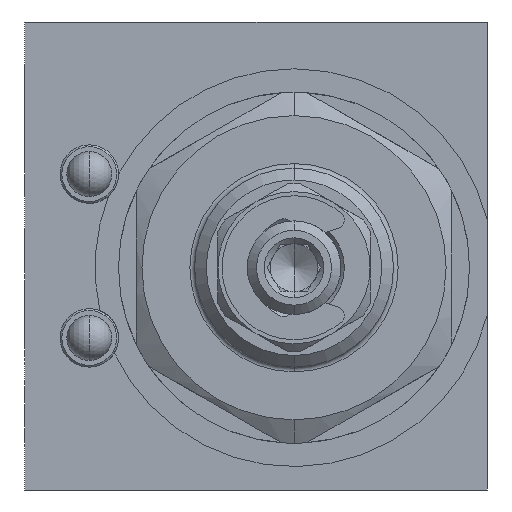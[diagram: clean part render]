
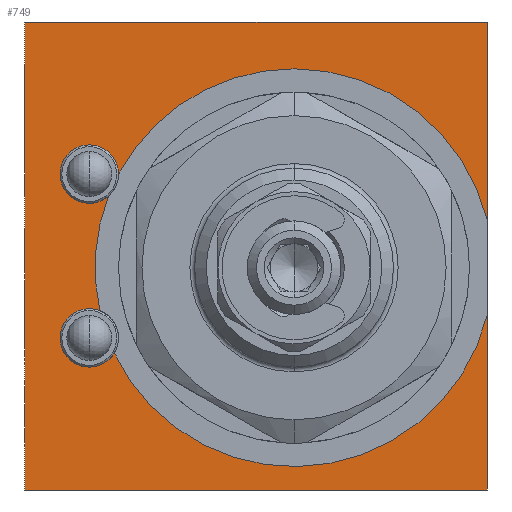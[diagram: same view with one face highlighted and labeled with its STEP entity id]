
A CAD part, left-side view. The second image highlights one B-rep face of the part: STEP entity #749.
In plain terms, the highlighted planar face has unit normal (-1, 0, 0).
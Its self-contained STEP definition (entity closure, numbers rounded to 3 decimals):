
#319 = AXIS2_PLACEMENT_3D ( 'NONE', #8232, #8203, #8198 ) ;
#443 = AXIS2_PLACEMENT_3D ( 'NONE', #13245, #13146, #13103 ) ;
#455 = AXIS2_PLACEMENT_3D ( 'NONE', #13768, #13729, #13668 ) ;
#749 = ADVANCED_FACE ( 'NONE', ( #11111 ), #6952, .T. ) ;
#1048 = VERTEX_POINT ( 'NONE', #10177 ) ;
#1672 = CIRCLE ( 'NONE', #455, 2.5 ) ;
#1721 = CIRCLE ( 'NONE', #443, 17. ) ;
#2089 = CARTESIAN_POINT ( 'NONE',  ( 0., 19.75, -20. ) ) ;
#2148 = CARTESIAN_POINT ( 'NONE',  ( 0., -3.25, 16. ) ) ;
#2497 = AXIS2_PLACEMENT_3D ( 'NONE', #7518, #7515, #7501 ) ;
#2709 = DIRECTION ( 'NONE',  ( 0., 0., 1. ) ) ;
#2713 = DIRECTION ( 'NONE',  ( 1., 0., 0. ) ) ;
#2746 = CARTESIAN_POINT ( 'NONE',  ( 0., -3.25, -1. ) ) ;
#3000 = VERTEX_POINT ( 'NONE', #12524 ) ;
#3323 = CARTESIAN_POINT ( 'NONE',  ( 0., -19.75, 20. ) ) ;
#3475 = VERTEX_POINT ( 'NONE', #2089 ) ;
#3727 = CIRCLE ( 'NONE', #319, 2.5 ) ;
#3878 = CARTESIAN_POINT ( 'NONE',  ( 0., 14.25, 9.5 ) ) ;
#4017 = VERTEX_POINT ( 'NONE', #7757 ) ;
#4080 = LINE ( 'NONE', #12334, #11488 ) ;
#4177 = CARTESIAN_POINT ( 'NONE',  ( 0., 13.35, -4.668 ) ) ;
#4306 = DIRECTION ( 'NONE',  ( 0., 0., 1. ) ) ;
#4317 = DIRECTION ( 'NONE',  ( 1., 0., 0. ) ) ;
#4356 = CIRCLE ( 'NONE', #5722, 17. ) ;
#4374 = CARTESIAN_POINT ( 'NONE',  ( 0., -3.25, -1. ) ) ;
#4681 = CARTESIAN_POINT ( 'NONE',  ( 0., 19.75, 20. ) ) ;
#5131 = VERTEX_POINT ( 'NONE', #4681 ) ;
#5542 = CARTESIAN_POINT ( 'NONE',  ( 0., 14.25, 4.5 ) ) ;
#5677 = VECTOR ( 'NONE', #10574, 1000. ) ;
#5681 = CIRCLE ( 'NONE', #11338, 2.5 ) ;
#5698 = LINE ( 'NONE', #16237, #5677 ) ;
#5722 = AXIS2_PLACEMENT_3D ( 'NONE', #13418, #13403, #13399 ) ;
#5994 = LINE ( 'NONE', #13553, #11458 ) ;
#6148 = ORIENTED_EDGE ( 'NONE', *, *, #14200, .F. ) ;
#6165 = ORIENTED_EDGE ( 'NONE', *, *, #10941, .F. ) ;
#6231 = ORIENTED_EDGE ( 'NONE', *, *, #16346, .F. ) ;
#6265 = DIRECTION ( 'NONE',  ( 0., 0., 1. ) ) ;
#6276 = DIRECTION ( 'NONE',  ( -1., 0., 0. ) ) ;
#6282 = CARTESIAN_POINT ( 'NONE',  ( 0., 14.25, 7. ) ) ;
#6373 = ORIENTED_EDGE ( 'NONE', *, *, #14081, .F. ) ;
#6405 = ORIENTED_EDGE ( 'NONE', *, *, #10958, .T. ) ;
#6518 = DIRECTION ( 'NONE',  ( 0., 0., 1. ) ) ;
#6614 = VERTEX_POINT ( 'NONE', #11868 ) ;
#6656 = LINE ( 'NONE', #3323, #9541 ) ;
#6700 = ORIENTED_EDGE ( 'NONE', *, *, #15270, .T. ) ;
#6702 = VERTEX_POINT ( 'NONE', #10121 ) ;
#6713 = ORIENTED_EDGE ( 'NONE', *, *, #15948, .T. ) ;
#6869 = CARTESIAN_POINT ( 'NONE',  ( 0., -19.75, -20. ) ) ;
#6952 = PLANE ( 'NONE',  #9409 ) ;
#7501 = DIRECTION ( 'NONE',  ( 0., 0., 1. ) ) ;
#7515 = DIRECTION ( 'NONE',  ( -1., 0., 0. ) ) ;
#7518 = CARTESIAN_POINT ( 'NONE',  ( 0., 14.25, -7. ) ) ;
#7668 = ORIENTED_EDGE ( 'NONE', *, *, #14242, .F. ) ;
#7757 = CARTESIAN_POINT ( 'NONE',  ( 0., 14.25, -9.5 ) ) ;
#8010 = CARTESIAN_POINT ( 'NONE',  ( 0., 11.75, 7. ) ) ;
#8198 = DIRECTION ( 'NONE',  ( 0., 0., 1. ) ) ;
#8203 = DIRECTION ( 'NONE',  ( -1., 0., 0. ) ) ;
#8227 = VERTEX_POINT ( 'NONE', #4177 ) ;
#8232 = CARTESIAN_POINT ( 'NONE',  ( 0., 14.25, -7. ) ) ;
#8436 = ORIENTED_EDGE ( 'NONE', *, *, #16329, .F. ) ;
#8442 = CARTESIAN_POINT ( 'NONE',  ( 0., 19.75, -20. ) ) ;
#8516 = CARTESIAN_POINT ( 'NONE',  ( 0., 14.25, -7. ) ) ;
#8573 = DIRECTION ( 'NONE',  ( -1., 0., 0. ) ) ;
#8644 = CARTESIAN_POINT ( 'NONE',  ( 0., 19.75, 20. ) ) ;
#8845 = VECTOR ( 'NONE', #6518, 1000. ) ;
#9004 = ORIENTED_EDGE ( 'NONE', *, *, #16098, .F. ) ;
#9073 = DIRECTION ( 'NONE',  ( 0., 0., 1. ) ) ;
#9409 = AXIS2_PLACEMENT_3D ( 'NONE', #8442, #8573, #9073 ) ;
#9541 = VECTOR ( 'NONE', #10679, 1000. ) ;
#9815 = DIRECTION ( 'NONE',  ( -1., 0., 0. ) ) ;
#10121 = CARTESIAN_POINT ( 'NONE',  ( 0., -19.75, -5.092 ) ) ;
#10177 = CARTESIAN_POINT ( 'NONE',  ( 0., 12.614, 5.109 ) ) ;
#10297 = CARTESIAN_POINT ( 'NONE',  ( 0., -19.75, 3.092 ) ) ;
#10574 = DIRECTION ( 'NONE',  ( 0., 1., 0. ) ) ;
#10607 = VERTEX_POINT ( 'NONE', #8010 ) ;
#10679 = DIRECTION ( 'NONE',  ( 0., 0., -1. ) ) ;
#10823 = VERTEX_POINT ( 'NONE', #10297 ) ;
#10860 = VERTEX_POINT ( 'NONE', #3878 ) ;
#10941 = EDGE_CURVE ( 'NONE', #10860, #14325, #1672, .T. ) ;
#10958 = EDGE_CURVE ( 'NONE', #15953, #10823, #1721, .T. ) ;
#11065 = DIRECTION ( 'NONE',  ( 0., -1., 0. ) ) ;
#11107 = EDGE_LOOP ( 'NONE', ( #6373, #6713, #6148, #6165, #7668, #6700, #6405, #8436, #6231, #9004, #13541, #13416, #16296, #12526, #14794 ) ) ;
#11111 = FACE_OUTER_BOUND ( 'NONE', #11107, .T. ) ;
#11283 = DIRECTION ( 'NONE',  ( 0., 0., -1. ) ) ;
#11338 = AXIS2_PLACEMENT_3D ( 'NONE', #8516, #9815, #16327 ) ;
#11409 = CIRCLE ( 'NONE', #16038, 2.5 ) ;
#11458 = VECTOR ( 'NONE', #11065, 1000. ) ;
#11488 = VECTOR ( 'NONE', #11283, 1000. ) ;
#11809 = CARTESIAN_POINT ( 'NONE',  ( 0., -19.75, 20. ) ) ;
#11868 = CARTESIAN_POINT ( 'NONE',  ( 0., 12.108, -8.289 ) ) ;
#12302 = CIRCLE ( 'NONE', #2497, 2.5 ) ;
#12334 = CARTESIAN_POINT ( 'NONE',  ( 0., -19.75, 20. ) ) ;
#12399 = VERTEX_POINT ( 'NONE', #11809 ) ;
#12524 = CARTESIAN_POINT ( 'NONE',  ( 0., 14.25, -4.5 ) ) ;
#12526 = ORIENTED_EDGE ( 'NONE', *, *, #14040, .F. ) ;
#12597 = CIRCLE ( 'NONE', #16016, 17. ) ;
#13103 = DIRECTION ( 'NONE',  ( 0., 0., 1. ) ) ;
#13111 = LINE ( 'NONE', #8644, #8845 ) ;
#13146 = DIRECTION ( 'NONE',  ( 1., 0., 0. ) ) ;
#13245 = CARTESIAN_POINT ( 'NONE',  ( 0., -3.25, -1. ) ) ;
#13358 = VERTEX_POINT ( 'NONE', #6869 ) ;
#13399 = DIRECTION ( 'NONE',  ( 0., 0., 1. ) ) ;
#13403 = DIRECTION ( 'NONE',  ( 1., 0., 0. ) ) ;
#13416 = ORIENTED_EDGE ( 'NONE', *, *, #16290, .F. ) ;
#13418 = CARTESIAN_POINT ( 'NONE',  ( 0., -3.25, -1. ) ) ;
#13541 = ORIENTED_EDGE ( 'NONE', *, *, #16347, .F. ) ;
#13543 = CIRCLE ( 'NONE', #16241, 2.5 ) ;
#13553 = CARTESIAN_POINT ( 'NONE',  ( 0., -19.75, 20. ) ) ;
#13668 = DIRECTION ( 'NONE',  ( 0., 0., 1. ) ) ;
#13729 = DIRECTION ( 'NONE',  ( -1., 0., 0. ) ) ;
#13768 = CARTESIAN_POINT ( 'NONE',  ( 0., 14.25, 7. ) ) ;
#14040 = EDGE_CURVE ( 'NONE', #4017, #6614, #3727, .T. ) ;
#14081 = EDGE_CURVE ( 'NONE', #8227, #3000, #12302, .T. ) ;
#14116 = DIRECTION ( 'NONE',  ( 0., 0., 1. ) ) ;
#14146 = DIRECTION ( 'NONE',  ( -1., 0., 0. ) ) ;
#14163 = CARTESIAN_POINT ( 'NONE',  ( 0., 14.25, 7. ) ) ;
#14200 = EDGE_CURVE ( 'NONE', #14325, #1048, #13543, .T. ) ;
#14242 = EDGE_CURVE ( 'NONE', #10607, #10860, #11409, .T. ) ;
#14325 = VERTEX_POINT ( 'NONE', #5542 ) ;
#14794 = ORIENTED_EDGE ( 'NONE', *, *, #16351, .F. ) ;
#15221 = CIRCLE ( 'NONE', #15461, 17. ) ;
#15270 = EDGE_CURVE ( 'NONE', #10607, #15953, #4356, .T. ) ;
#15461 = AXIS2_PLACEMENT_3D ( 'NONE', #2746, #2713, #2709 ) ;
#15901 = EDGE_CURVE ( 'NONE', #6702, #6614, #12597, .T. ) ;
#15948 = EDGE_CURVE ( 'NONE', #8227, #1048, #15221, .T. ) ;
#15953 = VERTEX_POINT ( 'NONE', #2148 ) ;
#16016 = AXIS2_PLACEMENT_3D ( 'NONE', #4374, #4317, #4306 ) ;
#16038 = AXIS2_PLACEMENT_3D ( 'NONE', #6282, #6276, #6265 ) ;
#16098 = EDGE_CURVE ( 'NONE', #3475, #5131, #13111, .T. ) ;
#16237 = CARTESIAN_POINT ( 'NONE',  ( 0., -19.75, -20. ) ) ;
#16241 = AXIS2_PLACEMENT_3D ( 'NONE', #14163, #14146, #14116 ) ;
#16290 = EDGE_CURVE ( 'NONE', #6702, #13358, #6656, .T. ) ;
#16296 = ORIENTED_EDGE ( 'NONE', *, *, #15901, .T. ) ;
#16327 = DIRECTION ( 'NONE',  ( 0., 0., 1. ) ) ;
#16329 = EDGE_CURVE ( 'NONE', #12399, #10823, #4080, .T. ) ;
#16346 = EDGE_CURVE ( 'NONE', #5131, #12399, #5994, .T. ) ;
#16347 = EDGE_CURVE ( 'NONE', #13358, #3475, #5698, .T. ) ;
#16351 = EDGE_CURVE ( 'NONE', #3000, #4017, #5681, .T. ) ;
